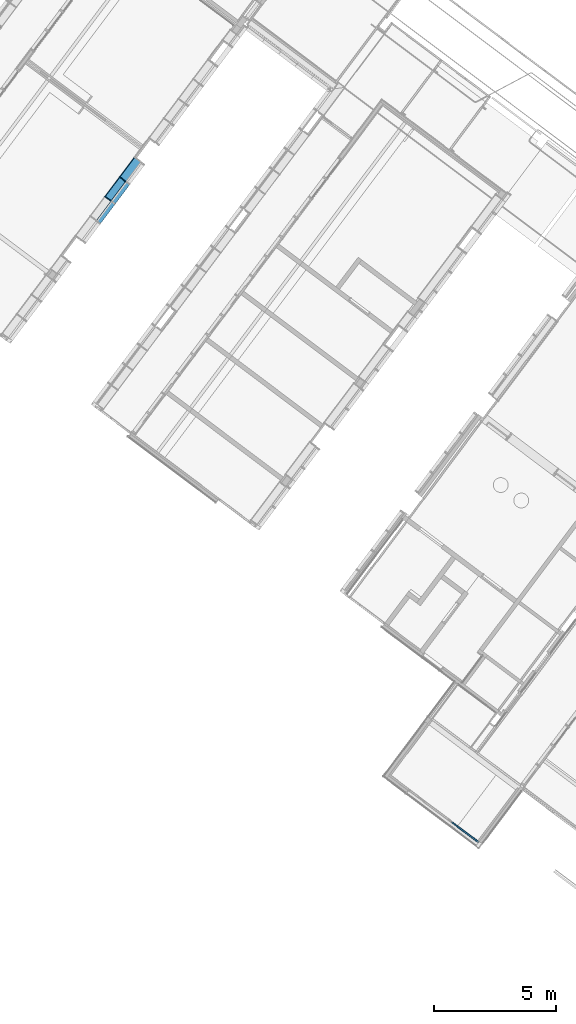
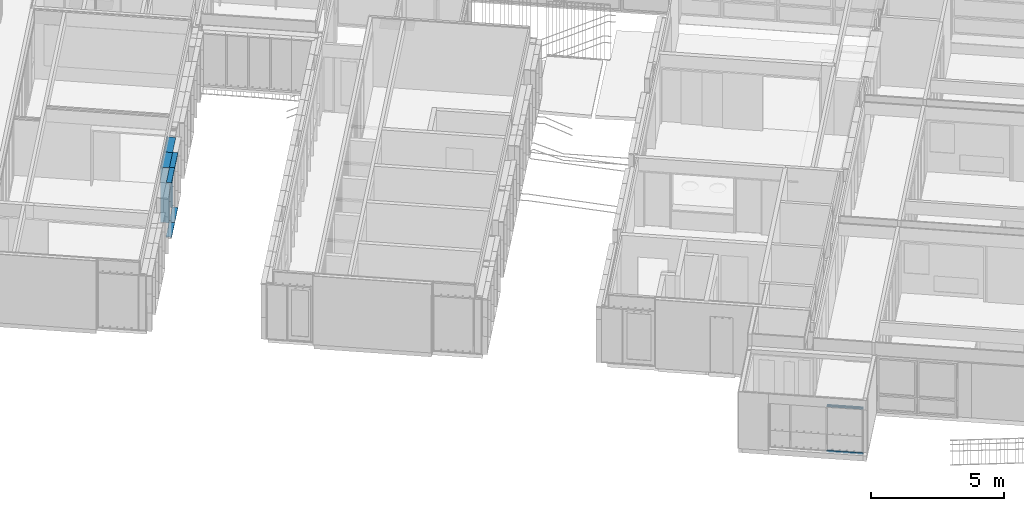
# One storey, part 7 of 243: 10 members, 3 elements without a shape of their own.
"""IFC2X3 building model written with IfcOpenShell, lengths in metres."""

from ifc_helpers import new_model, entity, si_unit, converted_unit, derived_unit, direction, frame, frame_2d, origin, place, context, subcontext, project, spatial, polyline, circle_curve, parameter, trimmed, segment, composite_curve, rectangle, outline, extrude, source, transform, mapped, material, type_object, type_shapes, element, aggregate, save


model = new_model("IFC2X3")

# Units and contexts
model_context = context("Model", 3, precision=1e-05, world=origin(), true_north=direction((6.123031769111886e-17, 1.0)))
body_context = subcontext(model_context, "Body", "Model", "MODEL_VIEW")
ifc_project = project(units=[si_unit("LENGTHUNIT", "METRE"), si_unit("AREAUNIT", "SQUARE_METRE"), si_unit("VOLUMEUNIT", "CUBIC_METRE"), converted_unit("PLANEANGLEUNIT", "DEGREE", entity("IfcRatioMeasure", 0.017453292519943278), si_unit("PLANEANGLEUNIT", "RADIAN"), dimensions=[0, 0, 0, 0, 0, 0, 0]), si_unit("MASSUNIT", "GRAM", prefix="KILO"), derived_unit("MASSDENSITYUNIT", [(si_unit("MASSUNIT", "GRAM", prefix="KILO"), 1), (si_unit("LENGTHUNIT", "METRE"), -3)]), derived_unit("IONCONCENTRATIONUNIT", [(si_unit("MASSUNIT", "GRAM", prefix="KILO"), 1), (si_unit("LENGTHUNIT", "METRE"), -3)]), derived_unit("MOMENTOFINERTIAUNIT", [(si_unit("LENGTHUNIT", "METRE"), 4)]), si_unit("TIMEUNIT", "SECOND"), si_unit("FREQUENCYUNIT", "HERTZ"), si_unit("THERMODYNAMICTEMPERATUREUNIT", "DEGREE_CELSIUS"), derived_unit("THERMALTRANSMITTANCEUNIT", [(si_unit("MASSUNIT", "GRAM", prefix="KILO"), 1), (si_unit("THERMODYNAMICTEMPERATUREUNIT", "KELVIN"), -1), (si_unit("TIMEUNIT", "SECOND"), -3)]), derived_unit("THERMALCONDUCTANCEUNIT", [(si_unit("MASSUNIT", "GRAM", prefix="KILO"), 1), (si_unit("THERMODYNAMICTEMPERATUREUNIT", "KELVIN"), -1), (si_unit("TIMEUNIT", "SECOND"), -3), (si_unit("LENGTHUNIT", "METRE"), 1)]), derived_unit("VOLUMETRICFLOWRATEUNIT", [(si_unit("LENGTHUNIT", "METRE"), 3), (si_unit("TIMEUNIT", "SECOND"), -1)]), derived_unit("MASSFLOWRATEUNIT", [(si_unit("MASSUNIT", "GRAM", prefix="KILO"), 1), (si_unit("TIMEUNIT", "SECOND"), -1)]), derived_unit("ROTATIONALFREQUENCYUNIT", [(si_unit("TIMEUNIT", "SECOND"), -1)]), si_unit("ELECTRICCURRENTUNIT", "AMPERE"), si_unit("ELECTRICVOLTAGEUNIT", "VOLT"), si_unit("POWERUNIT", "WATT"), si_unit("FORCEUNIT", "NEWTON", prefix="KILO"), si_unit("ILLUMINANCEUNIT", "LUX"), si_unit("LUMINOUSFLUXUNIT", "LUMEN"), si_unit("LUMINOUSINTENSITYUNIT", "CANDELA"), derived_unit("USERDEFINED", [(si_unit("MASSUNIT", "GRAM", prefix="KILO"), -1), (si_unit("LENGTHUNIT", "METRE"), -2), (si_unit("TIMEUNIT", "SECOND"), 3), (si_unit("LUMINOUSFLUXUNIT", "LUMEN"), 1)]), derived_unit("USERDEFINED", [(si_unit("MASSUNIT", "GRAM", prefix="KILO"), 1), (si_unit("TIMEUNIT", "SECOND"), -3), (si_unit("LENGTHUNIT", "METRE"), 3), (si_unit("ELECTRICCURRENTUNIT", "AMPERE"), -2)]), derived_unit("SOUNDPOWERUNIT", [(si_unit("MASSUNIT", "GRAM", prefix="KILO"), 1), (si_unit("TIMEUNIT", "SECOND"), -3), (si_unit("LENGTHUNIT", "METRE"), 2)]), derived_unit("SOUNDPRESSUREUNIT", [(si_unit("MASSUNIT", "GRAM", prefix="KILO"), 1), (si_unit("LENGTHUNIT", "METRE"), -1), (si_unit("TIMEUNIT", "SECOND"), -2)]), derived_unit("LINEARVELOCITYUNIT", [(si_unit("LENGTHUNIT", "METRE"), 1), (si_unit("TIMEUNIT", "SECOND"), -1)]), si_unit("PRESSUREUNIT", "PASCAL"), derived_unit("USERDEFINED", [(si_unit("MASSUNIT", "GRAM", prefix="KILO"), 1), (si_unit("LENGTHUNIT", "METRE"), -2), (si_unit("TIMEUNIT", "SECOND"), -2)]), derived_unit("LINEARFORCEUNIT", [(si_unit("MASSUNIT", "GRAM", prefix="KILO"), 1), (si_unit("TIMEUNIT", "SECOND"), -2)]), derived_unit("PLANARFORCEUNIT", [(si_unit("MASSUNIT", "GRAM", prefix="KILO"), 1), (si_unit("LENGTHUNIT", "METRE"), -1), (si_unit("TIMEUNIT", "SECOND"), -2)]), derived_unit("SPECIFICHEATCAPACITYUNIT", [(si_unit("THERMODYNAMICTEMPERATUREUNIT", "KELVIN"), -1), (si_unit("LENGTHUNIT", "METRE"), 2), (si_unit("TIMEUNIT", "SECOND"), -2)]), derived_unit("HEATINGVALUEUNIT", [(si_unit("LENGTHUNIT", "METRE"), 2), (si_unit("TIMEUNIT", "SECOND"), -2)]), derived_unit("VAPORPERMEABILITYUNIT", [(si_unit("LENGTHUNIT", "METRE"), -1), (si_unit("TIMEUNIT", "SECOND"), 1)]), derived_unit("DYNAMICVISCOSITYUNIT", [(si_unit("MASSUNIT", "GRAM", prefix="KILO"), 1), (si_unit("TIMEUNIT", "SECOND"), -1), (si_unit("LENGTHUNIT", "METRE"), -1)]), derived_unit("THERMALEXPANSIONCOEFFICIENTUNIT", [(si_unit("THERMODYNAMICTEMPERATUREUNIT", "KELVIN"), -1)]), derived_unit("MODULUSOFELASTICITYUNIT", [(si_unit("MASSUNIT", "GRAM", prefix="KILO"), 1), (si_unit("LENGTHUNIT", "METRE"), -1), (si_unit("TIMEUNIT", "SECOND"), -2)]), derived_unit("ISOTHERMALMOISTURECAPACITYUNIT", [(si_unit("LENGTHUNIT", "METRE"), 3), (si_unit("MASSUNIT", "GRAM", prefix="KILO"), -1)]), derived_unit("MOISTUREDIFFUSIVITYUNIT", [(si_unit("TIMEUNIT", "SECOND"), -1), (si_unit("LENGTHUNIT", "METRE"), 2)])], contexts=[model_context])

# Site, building, storey
site_placement = place(None, frame((0.0, 0.0, 235.0), z_axis=(0.0, 0.0, 1.0), x_axis=(-0.7996477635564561, 0.6004693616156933, 0.0)))
site = spatial("IfcSite", under=ifc_project, at=site_placement, Name="Default", CompositionType="ELEMENT")
building_placement = place(site_placement, origin())
building = spatial("IfcBuilding", under=site, at=building_placement, CompositionType="ELEMENT")
storey_placement = place(building_placement, origin())
storey = spatial("IfcBuildingStorey", under=building, at=storey_placement, Name="P0- Escola", CompositionType="ELEMENT", Elevation=0.0)

# Curtain wall, members
curtain_wall_type_1 = type_object("IfcCurtainWallType", Name="Muro cortina:MC- EXT- AL3", PredefinedType="NOTDEFINED")
curtain_wall_1_placement = place(storey_placement, origin())
curtain_wall_1 = element("IfcCurtainWall", 1, at=curtain_wall_1_placement, inside=storey, type_object=curtain_wall_type_1, Name="Muro cortina:MC- EXT- AL3", ObjectType="Muro cortina:MC- EXT- AL3")
ifc_material_1 = material(Name="_Alumini- T1- Perfil")
member_type_1 = type_object("IfcMemberType", Name="Montante rectangular:MC- Alu- 52x80 cm- Fa pista- inferior", PredefinedType="MULLION", material=ifc_material_1)
shared_shape_1 = source(origin(), body_context, "Body", "SweptSolid", [
    extrude(rectangle(XDim=0.06000000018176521, YDim=0.08500000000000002, at=frame_2d((-5.204170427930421e-18, -6.938893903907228e-18), x_axis=(1.0, 0.0))), frame((-0.0425, 0.030000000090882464, -1.3839999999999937), z_axis=(0.0, 0.0, 1.0), x_axis=(0.0, -1.0, 0.0)), (0.0, 0.0, 1.0), 1.383999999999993),
])
type_shapes(member_type_1, [shared_shape_1])
member_1_placement = place(curtain_wall_1_placement, frame((13.385147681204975, -15.46019175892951, 0.0), z_axis=(-1.0, 0.0, 0.0), x_axis=(0.0, 0.0, -1.0)))
member_1 = element("IfcMember", 2, at=member_1_placement, type_object=member_type_1, material=ifc_material_1, Name="Montante rectangular:MC- Alu- 52x80 cm- Fa pista- inferior", ObjectType="Montante rectangular:MC- Alu- 52x80 cm- Fa pista- inferior", context=body_context, shape_type="MappedRepresentation", body=[
    mapped(shared_shape_1, transform((0.0, 0.0, 0.0), scale=1.0)),
])
member_type_2 = type_object("IfcMemberType", Name="Montante rectangular:MC- Alu- 140x52,5 cm- Fa pista- Superior", PredefinedType="MULLION", material=ifc_material_1)
shared_shape_2 = source(origin(), body_context, "Body", "SweptSolid", [
    extrude(outline(polyline([(-0.02066666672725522, -0.04916666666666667), (0.03933333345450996, -0.04916666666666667), (0.03933333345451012, 0.00083333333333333), (-0.018666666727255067, 0.00083333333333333), (-0.018666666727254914, 0.04833333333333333), (-0.020666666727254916, 0.048333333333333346), (-0.02066666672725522, -0.04916666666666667)])), frame((-0.048333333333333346, 0.03933333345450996, -1.383999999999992), z_axis=(0.0, 0.0, 1.0), x_axis=(0.0, -1.0, 0.0)), (0.0, 0.0, 1.0), 1.383999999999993),
])
type_shapes(member_type_2, [shared_shape_2])
member_2_placement = place(curtain_wall_1_placement, frame((14.76914768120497, -15.460191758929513, 2.1699999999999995), z_axis=(1.0, 0.0, 0.0), x_axis=(0.0, 0.0, 1.0)))
member_2 = element("IfcMember", 3, at=member_2_placement, type_object=member_type_2, material=ifc_material_1, Name="Montante rectangular:MC- Alu- 140x52,5 cm- Fa pista- Superior", ObjectType="Montante rectangular:MC- Alu- 140x52,5 cm- Fa pista- Superior", context=body_context, shape_type="MappedRepresentation", body=[
    mapped(shared_shape_2, transform((0.0, 0.0, 0.0), scale=1.0)),
])
aggregate(curtain_wall_1, [member_1, member_2])

curtain_wall_type_2 = type_object("IfcCurtainWallType", Name="Muro cortina:MC- EXT- MC2", PredefinedType="NOTDEFINED")
curtain_wall_2_placement = place(storey_placement, origin())
curtain_wall_2 = element("IfcCurtainWall", 4, at=curtain_wall_2_placement, inside=storey, type_object=curtain_wall_type_2, Name="Muro cortina:MC- EXT- MC2", ObjectType="Muro cortina:MC- EXT- MC2")
member_type_3 = type_object("IfcMemberType", Name="Montante rectangular:MC- Alu- 140x52,5 cm- Fa patis- Superior", PredefinedType="MULLION", material=ifc_material_1)
shared_shape_3 = source(origin(), body_context, "Body", "SweptSolid", [
    extrude(outline(polyline([(-0.11366666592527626, -0.021249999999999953), (0.026333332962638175, -0.021249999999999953), (0.026333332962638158, -0.010000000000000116), (0.0873333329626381, -0.010000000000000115), (0.0873333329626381, 0.03125000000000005), (-0.11366666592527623, 0.031250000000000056), (-0.11366666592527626, -0.021249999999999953)])), frame((-0.031250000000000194, 0.0273333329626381, -1.0), z_axis=(0.0, 0.0, 1.0), x_axis=(0.0, -1.0, 0.0)), (0.0, 0.0, 1.0), 0.9999999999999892),
])
type_shapes(member_type_3, [shared_shape_3])
member_3_placement = place(curtain_wall_2_placement, frame((41.045147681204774, -27.41519175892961, 2.545), z_axis=(0.0, -1.0, 0.0), x_axis=(0.0, 0.0, 1.0)))
member_3 = element("IfcMember", 5, at=member_3_placement, type_object=member_type_3, material=ifc_material_1, Name="Montante rectangular:MC- Alu- 140x52,5 cm- Fa patis- Superior", ObjectType="Montante rectangular:MC- Alu- 140x52,5 cm- Fa patis- Superior", context=body_context, shape_type="MappedRepresentation", body=[
    mapped(shared_shape_3, transform((0.0, 0.0, 0.0), scale=1.0)),
])
member_4_placement = place(curtain_wall_2_placement, frame((41.04514768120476, -28.415191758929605, 2.545), z_axis=(0.0, -1.0, 0.0), x_axis=(0.0, 0.0, 1.0)))
member_4 = element("IfcMember", 6, at=member_4_placement, type_object=member_type_3, material=ifc_material_1, Name="Montante rectangular:MC- Alu- 140x52,5 cm- Fa patis- Superior", ObjectType="Montante rectangular:MC- Alu- 140x52,5 cm- Fa patis- Superior", context=body_context, shape_type="MappedRepresentation", body=[
    mapped(shared_shape_3, transform((0.0, 0.0, 0.0), scale=1.0)),
])
member_type_4 = type_object("IfcMemberType", Name="Montante rectangular:MC- Alu- 140x52,5 cm- Fa patis- inferior", PredefinedType="MULLION", material=ifc_material_1)
shared_shape_4 = source(origin(), body_context, "Body", "SweptSolid", [
    extrude(outline(composite_curve([segment(polyline([(0.1278672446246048, -0.02586710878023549), (0.14416724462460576, -0.025867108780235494)]), True, "CONTINUOUS"), segment(polyline([(0.14416724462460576, -0.025867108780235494), (0.1441672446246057, 0.009132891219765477)]), True, "CONTINUOUS"), segment(polyline([(0.1441672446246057, 0.009132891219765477), (0.06786724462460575, 0.009132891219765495)]), True, "CONTINUOUS"), segment(polyline([(0.06786724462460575, 0.009132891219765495), (0.06786724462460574, -0.021159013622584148)]), True, "CONTINUOUS"), segment(polyline([(0.06786724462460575, -0.02115901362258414), (-0.030132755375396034, -0.012332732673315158)]), True, "CONTINUOUS"), segment(polyline([(-0.03013275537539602, -0.012332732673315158), (-0.030132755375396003, 0.027132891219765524)]), True, "CONTINUOUS"), segment(polyline([(-0.030132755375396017, 0.02713289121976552), (-0.0021327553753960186, 0.02713289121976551)]), True, "CONTINUOUS"), segment(polyline([(-0.0021327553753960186, 0.027132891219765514), (-0.0021327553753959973, 0.029132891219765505)]), True, "CONTINUOUS"), segment(polyline([(-0.0021327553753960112, 0.029132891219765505), (-0.032132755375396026, 0.029132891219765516)]), True, "CONTINUOUS"), segment(polyline([(-0.032132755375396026, 0.029132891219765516), (-0.03213275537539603, -0.012152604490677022)]), True, "CONTINUOUS"), segment(polyline([(-0.03213275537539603, -0.012152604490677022), (-0.0701327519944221, -0.008730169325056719)]), True, "CONTINUOUS"), segment(polyline([(-0.0701327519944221, -0.008730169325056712), (-0.0701327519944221, 0.005766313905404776)]), True, "CONTINUOUS"), segment(trimmed(circle_curve(frame_2d((-0.0696327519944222, 0.0057663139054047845), x_axis=(-1.0, 0.0)), 0.0004999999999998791), [parameter(269.999999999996)], [parameter(0.0)], True, "PARAMETER"), False, "CONTINUOUS"), segment(polyline([(-0.0696327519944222, 0.00626631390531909), (-0.06213275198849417, 0.006266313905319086)]), True, "CONTINUOUS"), segment(polyline([(-0.06213275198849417, 0.006266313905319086), (-0.06213275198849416, 0.008266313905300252)]), True, "CONTINUOUS"), segment(polyline([(-0.06213275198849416, 0.008266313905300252), (-0.07013275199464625, 0.008266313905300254)]), True, "CONTINUOUS"), segment(trimmed(circle_curve(frame_2d((-0.07013275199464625, 0.006266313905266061), x_axis=(0.0, 1.0)), 0.0020000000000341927), [parameter(0.0)], [parameter(90.00000002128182)], True, "PARAMETER"), True, "CONTINUOUS"), segment(polyline([(-0.07213275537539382, 0.006266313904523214), (-0.07213275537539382, -0.008730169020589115)]), True, "CONTINUOUS"), segment(trimmed(circle_curve(frame_2d((-0.07013275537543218, -0.008730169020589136), x_axis=(-1.0, 0.0)), 0.0019999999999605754), [parameter(0.0)], [parameter(84.85359280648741)], True, "PARAMETER"), True, "CONTINUOUS"), segment(polyline([(-0.07031215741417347, -0.01072210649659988), (0.06786724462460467, -0.023167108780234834)]), True, "CONTINUOUS"), segment(polyline([(0.06786724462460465, -0.023167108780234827), (0.12786724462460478, -0.023167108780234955)]), True, "CONTINUOUS"), segment(polyline([(0.12786724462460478, -0.023167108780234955), (0.1278672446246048, -0.02586710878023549)]), True, "CONTINUOUS")], self_intersect=False)), frame((-0.029132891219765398, 0.06786724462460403, -0.9737499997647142), z_axis=(0.0, 0.0, 1.0), x_axis=(0.0, -1.0, 0.0)), (0.0, 0.0, 1.0), 0.9737499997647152),
])
type_shapes(member_type_4, [shared_shape_4])
member_5_placement = place(curtain_wall_2_placement, frame((41.045147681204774, -26.441441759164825, -0.02), z_axis=(0.0, 1.0, 0.0), x_axis=(0.0, 0.0, -1.0)))
member_5 = element("IfcMember", 7, at=member_5_placement, type_object=member_type_4, material=ifc_material_1, Name="Montante rectangular:MC- Alu- 140x52,5 cm- Fa patis- inferior", ObjectType="Montante rectangular:MC- Alu- 140x52,5 cm- Fa patis- inferior", context=body_context, shape_type="MappedRepresentation", body=[
    mapped(shared_shape_4, transform((0.0, 0.0, 0.0), scale=1.0)),
])
member_type_5 = type_object("IfcMemberType", Name="Montante rectangular:MC- Alu- 140x52,5 cm- Fa patis- inferior", PredefinedType="MULLION", material=ifc_material_1)
shared_shape_5 = source(origin(), body_context, "Body", "SweptSolid", [
    extrude(outline(composite_curve([segment(polyline([(0.1278672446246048, -0.02586710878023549), (0.14416724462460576, -0.025867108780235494)]), True, "CONTINUOUS"), segment(polyline([(0.14416724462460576, -0.025867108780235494), (0.1441672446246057, 0.009132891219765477)]), True, "CONTINUOUS"), segment(polyline([(0.1441672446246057, 0.009132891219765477), (0.06786724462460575, 0.009132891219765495)]), True, "CONTINUOUS"), segment(polyline([(0.06786724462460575, 0.009132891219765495), (0.06786724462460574, -0.021159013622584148)]), True, "CONTINUOUS"), segment(polyline([(0.06786724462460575, -0.02115901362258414), (-0.030132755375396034, -0.012332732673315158)]), True, "CONTINUOUS"), segment(polyline([(-0.03013275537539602, -0.012332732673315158), (-0.030132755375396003, 0.027132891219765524)]), True, "CONTINUOUS"), segment(polyline([(-0.030132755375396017, 0.02713289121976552), (-0.0021327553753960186, 0.02713289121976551)]), True, "CONTINUOUS"), segment(polyline([(-0.0021327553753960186, 0.027132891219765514), (-0.0021327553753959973, 0.029132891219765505)]), True, "CONTINUOUS"), segment(polyline([(-0.0021327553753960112, 0.029132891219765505), (-0.032132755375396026, 0.029132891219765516)]), True, "CONTINUOUS"), segment(polyline([(-0.032132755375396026, 0.029132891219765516), (-0.03213275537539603, -0.012152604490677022)]), True, "CONTINUOUS"), segment(polyline([(-0.03213275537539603, -0.012152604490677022), (-0.0701327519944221, -0.008730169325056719)]), True, "CONTINUOUS"), segment(polyline([(-0.0701327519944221, -0.008730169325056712), (-0.0701327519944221, 0.005766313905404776)]), True, "CONTINUOUS"), segment(trimmed(circle_curve(frame_2d((-0.0696327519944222, 0.0057663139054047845), x_axis=(-1.0, 0.0)), 0.0004999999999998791), [parameter(269.999999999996)], [parameter(0.0)], True, "PARAMETER"), False, "CONTINUOUS"), segment(polyline([(-0.0696327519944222, 0.00626631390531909), (-0.06213275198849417, 0.006266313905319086)]), True, "CONTINUOUS"), segment(polyline([(-0.06213275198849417, 0.006266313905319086), (-0.06213275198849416, 0.008266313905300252)]), True, "CONTINUOUS"), segment(polyline([(-0.06213275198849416, 0.008266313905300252), (-0.07013275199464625, 0.008266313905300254)]), True, "CONTINUOUS"), segment(trimmed(circle_curve(frame_2d((-0.07013275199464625, 0.006266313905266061), x_axis=(0.0, 1.0)), 0.0020000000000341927), [parameter(0.0)], [parameter(90.00000002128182)], True, "PARAMETER"), True, "CONTINUOUS"), segment(polyline([(-0.07213275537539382, 0.006266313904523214), (-0.07213275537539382, -0.008730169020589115)]), True, "CONTINUOUS"), segment(trimmed(circle_curve(frame_2d((-0.07013275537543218, -0.008730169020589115), x_axis=(-1.0, 0.0)), 0.0019999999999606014), [parameter(0.0)], [parameter(84.8535928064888)], True, "PARAMETER"), True, "CONTINUOUS"), segment(polyline([(-0.07031215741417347, -0.01072210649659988), (0.06786724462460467, -0.023167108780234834)]), True, "CONTINUOUS"), segment(polyline([(0.06786724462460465, -0.023167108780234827), (0.12786724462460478, -0.023167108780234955)]), True, "CONTINUOUS"), segment(polyline([(0.12786724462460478, -0.023167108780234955), (0.1278672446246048, -0.02586710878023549)]), True, "CONTINUOUS")], self_intersect=False)), frame((-0.029132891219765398, 0.06786724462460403, -1.0), z_axis=(0.0, 0.0, 1.0), x_axis=(0.0, -1.0, 0.0)), (0.0, 0.0, 1.0), 0.9999999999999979),
])
type_shapes(member_type_5, [shared_shape_5])
member_6_placement = place(curtain_wall_2_placement, frame((41.045147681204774, -27.41519175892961, -0.02), z_axis=(0.0, 1.0, 0.0), x_axis=(0.0, 0.0, -1.0)))
member_6 = element("IfcMember", 8, at=member_6_placement, type_object=member_type_5, material=ifc_material_1, Name="Montante rectangular:MC- Alu- 140x52,5 cm- Fa patis- inferior", ObjectType="Montante rectangular:MC- Alu- 140x52,5 cm- Fa patis- inferior", context=body_context, shape_type="MappedRepresentation", body=[
    mapped(shared_shape_5, transform((0.0, 0.0, 0.0), scale=1.0)),
])
aggregate(curtain_wall_2, [member_5, member_3, member_6, member_4])

curtain_wall_type_3 = type_object("IfcCurtainWallType", Name="Muro cortina:MC- INT- k7- Aules infantil", PredefinedType="NOTDEFINED")
curtain_wall_3_placement = place(storey_placement, origin())
curtain_wall_3 = element("IfcCurtainWall", 9, at=curtain_wall_3_placement, inside=storey, type_object=curtain_wall_type_3, Name="Muro cortina:MC- INT- k7- Aules infantil", ObjectType="Muro cortina:MC- INT- k7- Aules infantil")
ifc_material_2 = material(Name="_Fusta massisa- T1")
member_type_6 = type_object("IfcMemberType", Name="Montante rectangular:MC- Fusta- 35x3 cm- Centre", PredefinedType="MULLION", material=ifc_material_2)
shared_shape_6 = source(origin(), body_context, "Body", "SweptSolid", [
    extrude(rectangle(XDim=0.3450000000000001, YDim=0.030000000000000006, at=frame_2d((0.0, 1.3964523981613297e-16), x_axis=(1.0, 0.0))), frame((0.0, 0.07750000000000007, -2.5049999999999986), z_axis=(0.0, 0.0, 1.0), x_axis=(0.0, -1.0, 0.0)), (0.0, 0.0, 1.0), 2.5049999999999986),
])
type_shapes(member_type_6, [shared_shape_6])
member_7_placement = place(curtain_wall_3_placement, frame((41.34514768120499, -27.415191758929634, 0.0), z_axis=(0.0, 0.0, -1.0), x_axis=(0.0, -1.0, 0.0)))
member_7 = element("IfcMember", 10, at=member_7_placement, type_object=member_type_6, material=ifc_material_2, Name="Montante rectangular:MC- Fusta- 35x3 cm- Centre", ObjectType="Montante rectangular:MC- Fusta- 35x3 cm- Centre", context=body_context, shape_type="MappedRepresentation", body=[
    mapped(shared_shape_6, transform((0.0, 0.0, 0.0), scale=1.0)),
])
member_8_placement = place(curtain_wall_3_placement, frame((41.34514768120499, -28.415191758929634, 0.0), z_axis=(0.0, 0.0, -1.0), x_axis=(0.0, -1.0, 0.0)))
member_8 = element("IfcMember", 11, at=member_8_placement, type_object=member_type_6, material=ifc_material_2, Name="Montante rectangular:MC- Fusta- 35x3 cm- Centre", ObjectType="Montante rectangular:MC- Fusta- 35x3 cm- Centre", context=body_context, shape_type="MappedRepresentation", body=[
    mapped(shared_shape_6, transform((0.0, 0.0, 0.0), scale=1.0)),
])
member_type_7 = type_object("IfcMemberType", Name="Montante rectangular:MC- Fusta- 35x3 cm- Pati aules- Remat superior", PredefinedType="MULLION", material=ifc_material_2)
shared_shape_7 = source(origin(), body_context, "Body", "SweptSolid", [
    extrude(outline(polyline([(-0.21333333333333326, -0.02666666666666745), (0.1216666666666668, -0.02666666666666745), (0.12166666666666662, 0.03333333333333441), (0.09166666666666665, 0.03333333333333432), (0.09166666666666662, -0.006666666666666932), (-0.2133333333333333, -0.006666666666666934), (-0.21333333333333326, -0.02666666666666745)])), frame((-0.033333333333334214, 0.026666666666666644, -1.0), z_axis=(0.0, 0.0, 1.0), x_axis=(0.0, -1.0, 0.0)), (0.0, 0.0, 1.0), 0.9999999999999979),
])
type_shapes(member_type_7, [shared_shape_7])
member_9_placement = place(curtain_wall_3_placement, frame((41.34514768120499, -28.415191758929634, 2.565), z_axis=(0.0, -1.0, 0.0), x_axis=(0.0, 0.0, 1.0)))
member_9 = element("IfcMember", 12, at=member_9_placement, type_object=member_type_7, material=ifc_material_2, Name="Montante rectangular:MC- Fusta- 35x3 cm- Pati aules- Remat superior", ObjectType="Montante rectangular:MC- Fusta- 35x3 cm- Pati aules- Remat superior", context=body_context, shape_type="MappedRepresentation", body=[
    mapped(shared_shape_7, transform((0.0, 0.0, 0.0), scale=1.0)),
])
member_type_8 = type_object("IfcMemberType", Name="Montante rectangular:MC- Fusta- 35x3 cm- Pati aules- Remat superior", PredefinedType="MULLION", material=ifc_material_2)
shared_shape_8 = source(origin(), body_context, "Body", "SweptSolid", [
    extrude(outline(polyline([(-0.21333333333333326, -0.02666666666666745), (0.1216666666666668, -0.02666666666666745), (0.12166666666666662, 0.03333333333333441), (0.09166666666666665, 0.03333333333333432), (0.09166666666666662, -0.006666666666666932), (-0.2133333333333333, -0.006666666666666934), (-0.21333333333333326, -0.02666666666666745)])), frame((-0.033333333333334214, 0.026666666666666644, -1.0), z_axis=(0.0, 0.0, 1.0), x_axis=(0.0, -1.0, 0.0)), (0.0, 0.0, 1.0), 0.9999999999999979),
])
type_shapes(member_type_8, [shared_shape_8])
member_10_placement = place(curtain_wall_3_placement, frame((41.34514768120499, -29.41519175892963, 2.565), z_axis=(0.0, -1.0, 0.0), x_axis=(0.0, 0.0, 1.0)))
member_10 = element("IfcMember", 13, at=member_10_placement, type_object=member_type_8, material=ifc_material_2, Name="Montante rectangular:MC- Fusta- 35x3 cm- Pati aules- Remat superior", ObjectType="Montante rectangular:MC- Fusta- 35x3 cm- Pati aules- Remat superior", context=body_context, shape_type="MappedRepresentation", body=[
    mapped(shared_shape_8, transform((0.0, 0.0, 0.0), scale=1.0)),
])
aggregate(curtain_wall_3, [member_7, member_9, member_8, member_10])

save(model, "model.ifc")
